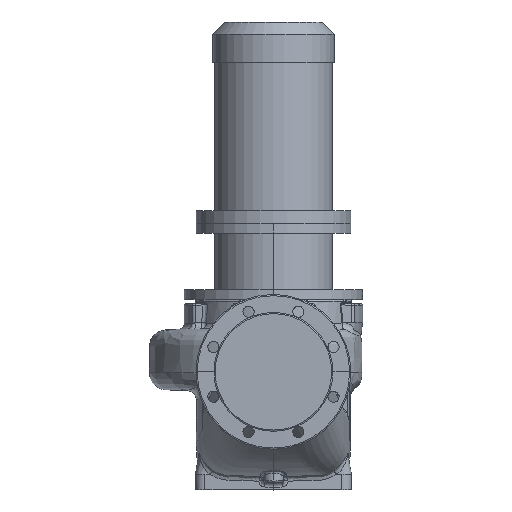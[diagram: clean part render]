
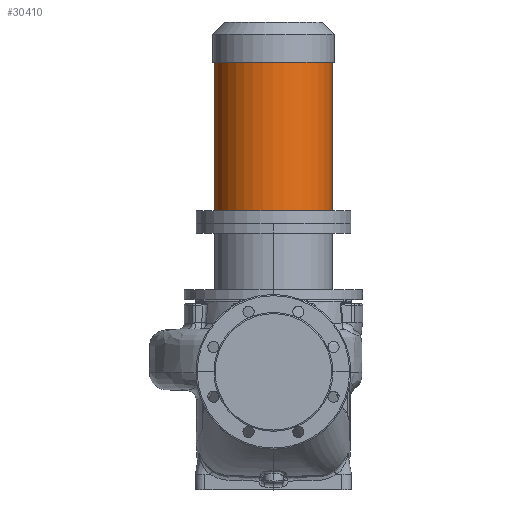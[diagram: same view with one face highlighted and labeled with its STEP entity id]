
A CAD part, top view. The second image highlights one B-rep face of the part: STEP entity #30410.
In plain terms, the highlighted cylindrical face has radius 95 mm (diameter 190 mm), a partial arc.
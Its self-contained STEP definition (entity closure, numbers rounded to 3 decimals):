
#3059 = AXIS2_PLACEMENT_3D ( 'NONE', #42298, #42093, #13749 ) ;
#6150 = CIRCLE ( 'NONE', #21400, 95. ) ;
#8488 = VECTOR ( 'NONE', #8501, 1000. ) ;
#8501 = DIRECTION ( 'NONE',  ( 0., -1., 0. ) ) ;
#9159 = CARTESIAN_POINT ( 'NONE',  ( 95., 260.3, 0. ) ) ;
#10916 = VERTEX_POINT ( 'NONE', #34241 ) ;
#13749 = DIRECTION ( 'NONE',  ( -1., 0., 0. ) ) ;
#14040 = ORIENTED_EDGE ( 'NONE', *, *, #44137, .F. ) ;
#14148 = EDGE_CURVE ( 'NONE', #10916, #28540, #6150, .T. ) ;
#21390 = DIRECTION ( 'NONE',  ( 0., -1., 0. ) ) ;
#21400 = AXIS2_PLACEMENT_3D ( 'NONE', #22020, #21390, #55387 ) ;
#22020 = CARTESIAN_POINT ( 'NONE',  ( 0., 500.3, 0. ) ) ;
#26524 = ORIENTED_EDGE ( 'NONE', *, *, #27598, .T. ) ;
#27598 = EDGE_CURVE ( 'NONE', #28540, #38835, #43846, .T. ) ;
#28070 = FACE_OUTER_BOUND ( 'NONE', #33869, .T. ) ;
#28540 = VERTEX_POINT ( 'NONE', #59653 ) ;
#30097 = LINE ( 'NONE', #42251, #8488 ) ;
#30410 = ADVANCED_FACE ( 'NONE', ( #28070 ), #40728, .T. ) ;
#32990 = CARTESIAN_POINT ( 'NONE',  ( 0., 240.3, 0. ) ) ;
#33869 = EDGE_LOOP ( 'NONE', ( #41092, #56617, #26524, #14040 ) ) ;
#33952 = AXIS2_PLACEMENT_3D ( 'NONE', #32990, #56560, #57964 ) ;
#34241 = CARTESIAN_POINT ( 'NONE',  ( 95., 500.3, 0. ) ) ;
#38835 = VERTEX_POINT ( 'NONE', #41415 ) ;
#39525 = DIRECTION ( 'NONE',  ( 0., -1., 0. ) ) ;
#40728 = CYLINDRICAL_SURFACE ( 'NONE', #33952, 95. ) ;
#41092 = ORIENTED_EDGE ( 'NONE', *, *, #50061, .F. ) ;
#41415 = CARTESIAN_POINT ( 'NONE',  ( -95., 260.3, 0. ) ) ;
#42093 = DIRECTION ( 'NONE',  ( 0., -1., 0. ) ) ;
#42251 = CARTESIAN_POINT ( 'NONE',  ( 95., 240.3, 0. ) ) ;
#42298 = CARTESIAN_POINT ( 'NONE',  ( 0., 260.3, 0. ) ) ;
#43193 = VERTEX_POINT ( 'NONE', #9159 ) ;
#43846 = LINE ( 'NONE', #48722, #49051 ) ;
#44137 = EDGE_CURVE ( 'NONE', #43193, #38835, #58637, .T. ) ;
#48722 = CARTESIAN_POINT ( 'NONE',  ( -95., 240.3, 0. ) ) ;
#49051 = VECTOR ( 'NONE', #39525, 1000. ) ;
#50061 = EDGE_CURVE ( 'NONE', #10916, #43193, #30097, .T. ) ;
#55387 = DIRECTION ( 'NONE',  ( -1., 0., 0. ) ) ;
#56560 = DIRECTION ( 'NONE',  ( 0., -1., 0. ) ) ;
#56617 = ORIENTED_EDGE ( 'NONE', *, *, #14148, .T. ) ;
#57964 = DIRECTION ( 'NONE',  ( -1., 0., 0. ) ) ;
#58637 = CIRCLE ( 'NONE', #3059, 95. ) ;
#59653 = CARTESIAN_POINT ( 'NONE',  ( -95., 500.3, 0. ) ) ;
